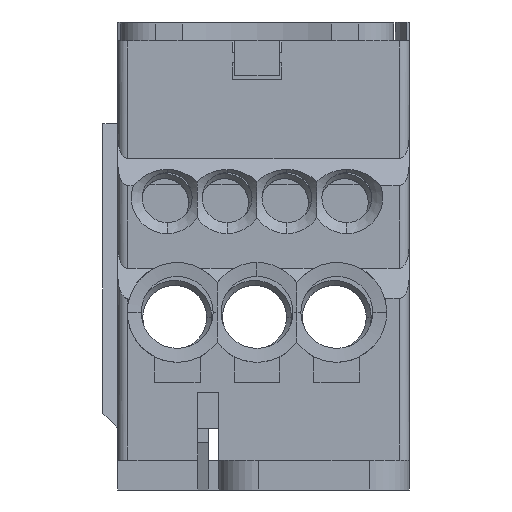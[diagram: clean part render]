
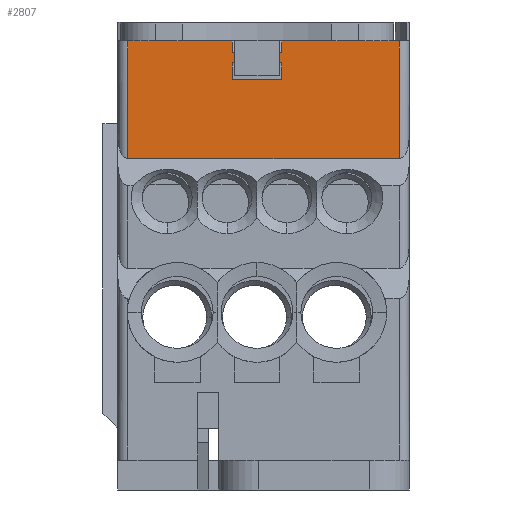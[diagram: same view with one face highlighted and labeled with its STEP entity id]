
A CAD part, front view. The second image highlights one B-rep face of the part: STEP entity #2807.
In plain terms, the highlighted planar face has unit normal (0, -1, 0).
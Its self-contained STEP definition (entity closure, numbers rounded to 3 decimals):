
#2807=ADVANCED_FACE('',(#3254,#3255),#3146,.T.);
#3146=PLANE('',#10757);
#3254=FACE_BOUND('',#3542,.T.);
#3255=FACE_BOUND('',#3543,.T.);
#3542=EDGE_LOOP('',(#5596,#5597,#5598,#5599,#5600,#5601,#5602,#5603));
#3543=EDGE_LOOP('',(#5604,#5605,#5606,#5607));
#5596=ORIENTED_EDGE('',*,*,#7694,.T.);
#5597=ORIENTED_EDGE('',*,*,#8268,.F.);
#5598=ORIENTED_EDGE('',*,*,#8269,.T.);
#5599=ORIENTED_EDGE('',*,*,#8270,.T.);
#5600=ORIENTED_EDGE('',*,*,#7690,.T.);
#5601=ORIENTED_EDGE('',*,*,#8267,.T.);
#5602=ORIENTED_EDGE('',*,*,#7747,.F.);
#5603=ORIENTED_EDGE('',*,*,#8271,.T.);
#5604=ORIENTED_EDGE('',*,*,#8272,.T.);
#5605=ORIENTED_EDGE('',*,*,#8273,.T.);
#5606=ORIENTED_EDGE('',*,*,#8274,.F.);
#5607=ORIENTED_EDGE('',*,*,#8275,.F.);
#6818=VERTEX_POINT('',#13894);
#6819=VERTEX_POINT('',#13896);
#6822=VERTEX_POINT('',#13902);
#6823=VERTEX_POINT('',#13904);
#6861=VERTEX_POINT('',#14004);
#6862=VERTEX_POINT('',#14006);
#7184=VERTEX_POINT('',#15099);
#7185=VERTEX_POINT('',#15101);
#7186=VERTEX_POINT('',#15105);
#7187=VERTEX_POINT('',#15106);
#7188=VERTEX_POINT('',#15108);
#7189=VERTEX_POINT('',#15110);
#7690=EDGE_CURVE('',#6819,#6818,#8920,.T.);
#7694=EDGE_CURVE('',#6823,#6822,#8924,.T.);
#7747=EDGE_CURVE('',#6861,#6862,#8955,.T.);
#8267=EDGE_CURVE('',#6818,#6862,#9310,.T.);
#8268=EDGE_CURVE('',#7184,#6822,#9311,.T.);
#8269=EDGE_CURVE('',#7184,#7185,#9312,.T.);
#8270=EDGE_CURVE('',#7185,#6819,#9313,.T.);
#8271=EDGE_CURVE('',#6861,#6823,#9314,.T.);
#8272=EDGE_CURVE('',#7186,#7187,#9315,.T.);
#8273=EDGE_CURVE('',#7187,#7188,#9316,.T.);
#8274=EDGE_CURVE('',#7189,#7188,#9317,.T.);
#8275=EDGE_CURVE('',#7186,#7189,#9318,.T.);
#8920=LINE('',#13895,#9697);
#8924=LINE('',#13903,#9701);
#8955=LINE('',#14005,#9732);
#9310=LINE('',#15096,#10087);
#9311=LINE('',#15098,#10088);
#9312=LINE('',#15100,#10089);
#9313=LINE('',#15102,#10090);
#9314=LINE('',#15103,#10091);
#9315=LINE('',#15104,#10092);
#9316=LINE('',#15107,#10093);
#9317=LINE('',#15109,#10094);
#9318=LINE('',#15111,#10095);
#9697=VECTOR('',#11403,1.);
#9701=VECTOR('',#11407,1.);
#9732=VECTOR('',#11502,1.);
#10087=VECTOR('',#12521,1.);
#10088=VECTOR('',#12524,1.);
#10089=VECTOR('',#12525,1.);
#10090=VECTOR('',#12526,1.);
#10091=VECTOR('',#12527,1.);
#10092=VECTOR('',#12528,1.);
#10093=VECTOR('',#12529,1.);
#10094=VECTOR('',#12530,1.);
#10095=VECTOR('',#12531,1.);
#10757=AXIS2_PLACEMENT_3D('',#15112,#12532,#12533);
#11403=DIRECTION('',(-1.,0.,0.));
#11407=DIRECTION('',(-1.,0.,0.));
#11502=DIRECTION('',(-1.,0.,0.));
#12521=DIRECTION('',(0.,0.,-1.));
#12524=DIRECTION('',(0.,0.,1.));
#12525=DIRECTION('',(-1.,0.,0.));
#12526=DIRECTION('',(0.,0.,1.));
#12527=DIRECTION('',(0.,0.,1.));
#12528=DIRECTION('',(-1.,0.,0.));
#12529=DIRECTION('',(0.,0.,1.));
#12530=DIRECTION('',(-1.,0.,0.));
#12531=DIRECTION('',(0.,0.,1.));
#12532=DIRECTION('',(0.,-1.,0.));
#12533=DIRECTION('',(0.,0.,1.));
#13894=CARTESIAN_POINT('',(2.5,12.9,-1.9));
#13895=CARTESIAN_POINT('',(12.95,12.9,-1.9));
#13896=CARTESIAN_POINT('',(12.95,12.9,-1.9));
#13902=CARTESIAN_POINT('',(17.95,12.9,-1.9));
#13903=CARTESIAN_POINT('',(29.7,12.9,-1.9));
#13904=CARTESIAN_POINT('',(29.7,12.9,-1.9));
#14004=CARTESIAN_POINT('',(29.7,12.9,-13.7));
#14005=CARTESIAN_POINT('',(29.7,12.9,-13.7));
#14006=CARTESIAN_POINT('',(2.5,12.9,-13.7));
#15096=CARTESIAN_POINT('',(2.5,12.9,-1.9));
#15098=CARTESIAN_POINT('',(17.95,12.9,-3.1));
#15099=CARTESIAN_POINT('',(17.95,12.9,-3.1));
#15100=CARTESIAN_POINT('',(17.95,12.9,-3.1));
#15101=CARTESIAN_POINT('',(12.95,12.9,-3.1));
#15102=CARTESIAN_POINT('',(12.95,12.9,-3.1));
#15103=CARTESIAN_POINT('',(29.7,12.9,-13.7));
#15104=CARTESIAN_POINT('',(17.95,12.9,-5.75));
#15105=CARTESIAN_POINT('',(17.95,12.9,-5.75));
#15106=CARTESIAN_POINT('',(12.95,12.9,-5.75));
#15107=CARTESIAN_POINT('',(12.95,12.9,-5.75));
#15108=CARTESIAN_POINT('',(12.95,12.9,-4.1));
#15109=CARTESIAN_POINT('',(17.95,12.9,-4.1));
#15110=CARTESIAN_POINT('',(17.95,12.9,-4.1));
#15111=CARTESIAN_POINT('',(17.95,12.9,-5.75));
#15112=CARTESIAN_POINT('',(1.5,12.9,-1.9));
